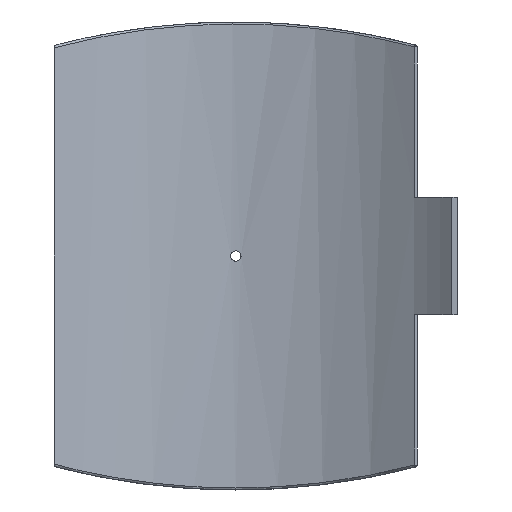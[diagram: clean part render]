
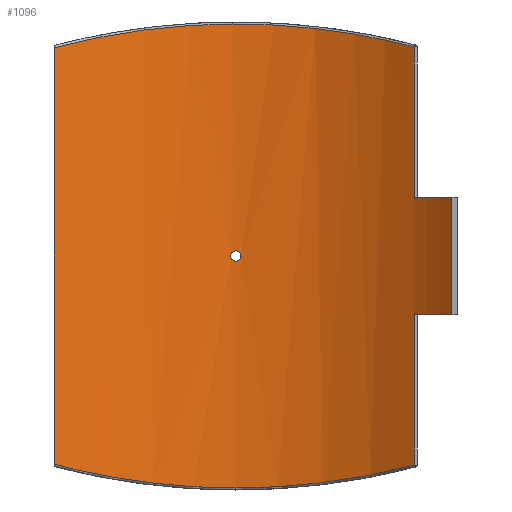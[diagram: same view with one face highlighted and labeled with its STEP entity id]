
A CAD part, front view. The second image highlights one B-rep face of the part: STEP entity #1096.
In plain terms, the highlighted cylindrical face has radius 315 mm (diameter 630 mm), a partial arc.
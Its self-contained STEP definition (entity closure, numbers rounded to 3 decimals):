
#55=FACE_BOUND('',#359,.T.);
#109=B_SPLINE_CURVE_WITH_KNOTS('',3,(#2239,#2240,#2241,#2242,#2243,#2244,
#2245,#2246,#2247,#2248),.UNSPECIFIED.,.F.,.F.,(4,1,1,1,1,1,1,4),(-44.4,
-38.816,-33.232,-27.647,-22.063,
-16.479,-10.895,-5.311),.UNSPECIFIED.);
#110=B_SPLINE_CURVE_WITH_KNOTS('',3,(#2257,#2258,#2259,#2260,#2261,#2262,
#2263,#2264,#2265,#2266),.UNSPECIFIED.,.F.,.F.,(4,1,1,1,1,1,1,4),(-41.231,
-35.647,-30.062,-24.478,-18.894,
-13.31,-7.726,-2.142),.UNSPECIFIED.);
#111=B_SPLINE_CURVE_WITH_KNOTS('',3,(#2269,#2270,#2271,#2272,#2273,#2274,
#2275,#2276,#2277,#2278),.UNSPECIFIED.,.F.,.F.,(4,2,2,2,4),(0.,0.196,
0.392,0.588,0.784),.UNSPECIFIED.);
#112=B_SPLINE_CURVE_WITH_KNOTS('',3,(#2279,#2280,#2281,#2282,#2283,#2284,
#2285,#2286,#2287,#2288,#2289,#2290,#2291,#2292,#2293,#2294,#2295,#2296,
#2297,#2298,#2299,#2300,#2301,#2302,#2303,#2304),.UNSPECIFIED.,.F.,.F.,
(4,2,2,2,2,2,2,2,2,2,2,2,4),(0.784,0.979,1.175,
1.371,1.567,1.763,1.959,2.155,
2.351,2.546,2.742,2.938,3.134),
 .UNSPECIFIED.);
#133=LINE('',#1644,#185);
#144=LINE('',#1928,#196);
#151=LINE('',#2253,#203);
#152=LINE('',#2256,#204);
#185=VECTOR('',#1314,10.);
#196=VECTOR('',#1353,10.);
#203=VECTOR('',#1390,10.);
#204=VECTOR('',#1393,10.);
#246=CYLINDRICAL_SURFACE('',#1194,315.);
#291=FACE_OUTER_BOUND('',#358,.T.);
#358=EDGE_LOOP('',(#851,#852,#853,#854,#855,#856,#857,#858));
#359=EDGE_LOOP('',(#859,#860));
#454=CIRCLE('',#1195,315.);
#455=CIRCLE('',#1196,315.);
#517=VERTEX_POINT('',#1635);
#520=VERTEX_POINT('',#1642);
#540=VERTEX_POINT('',#1921);
#543=VERTEX_POINT('',#1926);
#556=VERTEX_POINT('',#2222);
#557=VERTEX_POINT('',#2250);
#558=VERTEX_POINT('',#2252);
#559=VERTEX_POINT('',#2255);
#560=VERTEX_POINT('',#2267);
#561=VERTEX_POINT('',#2268);
#622=EDGE_CURVE('',#520,#517,#133,.T.);
#652=EDGE_CURVE('',#543,#540,#144,.T.);
#675=EDGE_CURVE('',#556,#543,#109,.T.);
#676=EDGE_CURVE('',#557,#520,#454,.T.);
#677=EDGE_CURVE('',#557,#558,#151,.T.);
#678=EDGE_CURVE('',#540,#558,#455,.T.);
#679=EDGE_CURVE('',#559,#556,#152,.T.);
#680=EDGE_CURVE('',#517,#559,#110,.T.);
#681=EDGE_CURVE('',#560,#561,#111,.T.);
#682=EDGE_CURVE('',#561,#560,#112,.T.);
#851=ORIENTED_EDGE('',*,*,#676,.F.);
#852=ORIENTED_EDGE('',*,*,#677,.T.);
#853=ORIENTED_EDGE('',*,*,#678,.F.);
#854=ORIENTED_EDGE('',*,*,#652,.F.);
#855=ORIENTED_EDGE('',*,*,#675,.F.);
#856=ORIENTED_EDGE('',*,*,#679,.F.);
#857=ORIENTED_EDGE('',*,*,#680,.F.);
#858=ORIENTED_EDGE('',*,*,#622,.F.);
#859=ORIENTED_EDGE('',*,*,#681,.T.);
#860=ORIENTED_EDGE('',*,*,#682,.T.);
#1096=ADVANCED_FACE('',(#291,#55),#246,.F.);
#1194=AXIS2_PLACEMENT_3D('',#2249,#1386,#1387);
#1195=AXIS2_PLACEMENT_3D('',#2251,#1388,#1389);
#1196=AXIS2_PLACEMENT_3D('',#2254,#1391,#1392);
#1314=DIRECTION('',(0.,0.,-1.));
#1353=DIRECTION('',(0.,0.,-1.));
#1386=DIRECTION('center_axis',(0.,0.,1.));
#1387=DIRECTION('ref_axis',(-1.,0.,0.));
#1388=DIRECTION('center_axis',(0.,0.,1.));
#1389=DIRECTION('ref_axis',(-0.688,-0.725,0.));
#1390=DIRECTION('',(0.,0.,1.));
#1391=DIRECTION('center_axis',(0.,0.,-1.));
#1392=DIRECTION('ref_axis',(-0.688,-0.725,0.));
#1393=DIRECTION('',(0.,0.,1.));
#1635=CARTESIAN_POINT('',(179.113,259.121,-209.955));
#1642=CARTESIAN_POINT('',(179.113,259.121,-58.75));
#1644=CARTESIAN_POINT('',(179.113,259.121,0.));
#1921=CARTESIAN_POINT('',(179.113,259.121,58.75));
#1926=CARTESIAN_POINT('',(179.113,259.121,209.955));
#1928=CARTESIAN_POINT('',(179.113,259.121,0.));
#2222=CARTESIAN_POINT('',(-182.25,256.924,209.127));
#2239=CARTESIAN_POINT('Ctrl Pts',(-182.25,256.924,209.127));
#2240=CARTESIAN_POINT('Ctrl Pts',(-167.505,267.383,213.056));
#2241=CARTESIAN_POINT('Ctrl Pts',(-136.109,285.832,220.396));
#2242=CARTESIAN_POINT('Ctrl Pts',(-84.485,305.135,228.625));
#2243=CARTESIAN_POINT('Ctrl Pts',(-29.836,315.225,233.098));
#2244=CARTESIAN_POINT('Ctrl Pts',(25.909,315.574,233.256));
#2245=CARTESIAN_POINT('Ctrl Pts',(80.702,306.158,229.072));
#2246=CARTESIAN_POINT('Ctrl Pts',(132.595,287.482,221.083));
#2247=CARTESIAN_POINT('Ctrl Pts',(164.234,269.405,213.847));
#2248=CARTESIAN_POINT('Ctrl Pts',(179.113,259.121,209.955));
#2249=CARTESIAN_POINT('Origin',(0.,0.,0.));
#2250=CARTESIAN_POINT('',(216.845,228.48,-58.75));
#2251=CARTESIAN_POINT('Origin',(0.,0.,
-58.75));
#2252=CARTESIAN_POINT('',(216.845,228.48,58.75));
#2253=CARTESIAN_POINT('',(216.845,228.48,0.));
#2254=CARTESIAN_POINT('Origin',(0.,0.,
58.75));
#2255=CARTESIAN_POINT('',(-182.25,256.924,-209.127));
#2256=CARTESIAN_POINT('',(-182.25,256.924,0.));
#2257=CARTESIAN_POINT('Ctrl Pts',(179.113,259.121,-209.955));
#2258=CARTESIAN_POINT('Ctrl Pts',(164.234,269.405,-213.847));
#2259=CARTESIAN_POINT('Ctrl Pts',(132.594,287.482,-221.082));
#2260=CARTESIAN_POINT('Ctrl Pts',(80.703,306.159,-229.073));
#2261=CARTESIAN_POINT('Ctrl Pts',(25.909,315.573,-233.255));
#2262=CARTESIAN_POINT('Ctrl Pts',(-29.836,315.226,-233.099));
#2263=CARTESIAN_POINT('Ctrl Pts',(-84.484,305.134,-228.624));
#2264=CARTESIAN_POINT('Ctrl Pts',(-136.11,285.832,-220.397));
#2265=CARTESIAN_POINT('Ctrl Pts',(-167.505,267.383,-213.056));
#2266=CARTESIAN_POINT('Ctrl Pts',(-182.25,256.924,-209.127));
#2267=CARTESIAN_POINT('',(5.2,314.957,0.));
#2268=CARTESIAN_POINT('',(0.,315.,-5.2));
#2269=CARTESIAN_POINT('Ctrl Pts',(5.2,314.957,0.));
#2270=CARTESIAN_POINT('Ctrl Pts',(5.2,314.957,-0.653));
#2271=CARTESIAN_POINT('Ctrl Pts',(5.07,314.959,-1.349));
#2272=CARTESIAN_POINT('Ctrl Pts',(4.539,314.967,-2.631));
#2273=CARTESIAN_POINT('Ctrl Pts',(4.139,314.973,-3.215));
#2274=CARTESIAN_POINT('Ctrl Pts',(3.215,314.984,-4.139));
#2275=CARTESIAN_POINT('Ctrl Pts',(2.631,314.99,-4.539));
#2276=CARTESIAN_POINT('Ctrl Pts',(1.349,314.998,-5.07));
#2277=CARTESIAN_POINT('Ctrl Pts',(0.653,315.,-5.2));
#2278=CARTESIAN_POINT('Ctrl Pts',(0.,315.,-5.2));
#2279=CARTESIAN_POINT('Ctrl Pts',(0.,315.,-5.2));
#2280=CARTESIAN_POINT('Ctrl Pts',(-0.653,315.,-5.2));
#2281=CARTESIAN_POINT('Ctrl Pts',(-1.349,314.998,-5.07));
#2282=CARTESIAN_POINT('Ctrl Pts',(-2.631,314.99,-4.539));
#2283=CARTESIAN_POINT('Ctrl Pts',(-3.215,314.984,-4.139));
#2284=CARTESIAN_POINT('Ctrl Pts',(-4.139,314.973,-3.215));
#2285=CARTESIAN_POINT('Ctrl Pts',(-4.539,314.967,-2.631));
#2286=CARTESIAN_POINT('Ctrl Pts',(-5.07,314.959,-1.349));
#2287=CARTESIAN_POINT('Ctrl Pts',(-5.2,314.957,-0.653));
#2288=CARTESIAN_POINT('Ctrl Pts',(-5.2,314.957,0.653));
#2289=CARTESIAN_POINT('Ctrl Pts',(-5.07,314.959,1.349));
#2290=CARTESIAN_POINT('Ctrl Pts',(-4.539,314.967,2.631));
#2291=CARTESIAN_POINT('Ctrl Pts',(-4.139,314.973,3.215));
#2292=CARTESIAN_POINT('Ctrl Pts',(-3.215,314.984,4.139));
#2293=CARTESIAN_POINT('Ctrl Pts',(-2.631,314.99,4.539));
#2294=CARTESIAN_POINT('Ctrl Pts',(-1.349,314.998,5.07));
#2295=CARTESIAN_POINT('Ctrl Pts',(-0.653,315.,5.2));
#2296=CARTESIAN_POINT('Ctrl Pts',(0.653,315.,5.2));
#2297=CARTESIAN_POINT('Ctrl Pts',(1.349,314.998,5.07));
#2298=CARTESIAN_POINT('Ctrl Pts',(2.631,314.99,4.539));
#2299=CARTESIAN_POINT('Ctrl Pts',(3.215,314.984,4.139));
#2300=CARTESIAN_POINT('Ctrl Pts',(4.139,314.973,3.215));
#2301=CARTESIAN_POINT('Ctrl Pts',(4.539,314.967,2.631));
#2302=CARTESIAN_POINT('Ctrl Pts',(5.07,314.959,1.349));
#2303=CARTESIAN_POINT('Ctrl Pts',(5.2,314.957,0.653));
#2304=CARTESIAN_POINT('Ctrl Pts',(5.2,314.957,0.));
